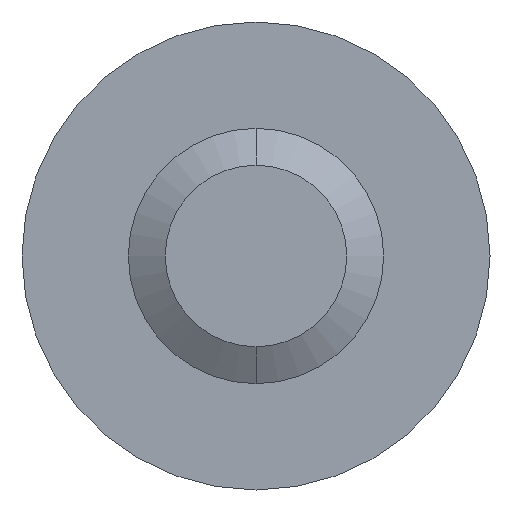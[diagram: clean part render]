
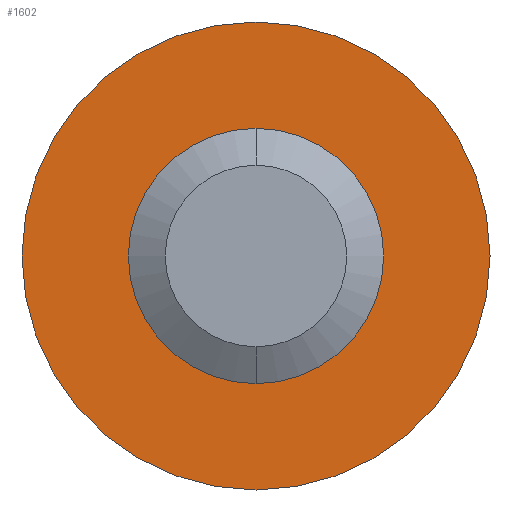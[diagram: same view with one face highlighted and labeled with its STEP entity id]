
A CAD part, front view. The second image highlights one B-rep face of the part: STEP entity #1602.
In plain terms, the highlighted planar face has unit normal (0, -1, 0).
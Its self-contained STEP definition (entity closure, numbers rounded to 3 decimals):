
#26 = CARTESIAN_POINT ( 'NONE',  ( 0., 12., 0. ) ) ;
#36 = CIRCLE ( 'NONE', #2348, 2.75 ) ;
#545 = FACE_BOUND ( 'NONE', #2938, .T. ) ;
#562 = AXIS2_PLACEMENT_3D ( 'NONE', #2327, #844, #1345 ) ;
#569 = DIRECTION ( 'NONE',  ( 0., 1., 0. ) ) ;
#671 = DIRECTION ( 'NONE',  ( 0., 0., 1. ) ) ;
#714 = CIRCLE ( 'NONE', #562, 2.75 ) ;
#835 = VERTEX_POINT ( 'NONE', #1863 ) ;
#843 = EDGE_CURVE ( 'NONE', #2901, #1191, #36, .T. ) ;
#844 = DIRECTION ( 'NONE',  ( 0., 1., 0. ) ) ;
#926 = ORIENTED_EDGE ( 'NONE', *, *, #3163, .F. ) ;
#943 = EDGE_CURVE ( 'NONE', #2825, #835, #2410, .T. ) ;
#968 = AXIS2_PLACEMENT_3D ( 'NONE', #2335, #2113, #671 ) ;
#1002 = CARTESIAN_POINT ( 'NONE',  ( 0., 12., -2.75 ) ) ;
#1010 = DIRECTION ( 'NONE',  ( 0., 1., 0. ) ) ;
#1017 = CIRCLE ( 'NONE', #1480, 1.5 ) ;
#1191 = VERTEX_POINT ( 'NONE', #1002 ) ;
#1345 = DIRECTION ( 'NONE',  ( 0., 0., 1. ) ) ;
#1480 = AXIS2_PLACEMENT_3D ( 'NONE', #1972, #569, #1512 ) ;
#1512 = DIRECTION ( 'NONE',  ( 0., 0., 1. ) ) ;
#1602 = ADVANCED_FACE ( 'NONE', ( #2482, #545 ), #2231, .F. ) ;
#1851 = DIRECTION ( 'NONE',  ( 0., 0., 1. ) ) ;
#1863 = CARTESIAN_POINT ( 'NONE',  ( 0., 12., 1.5 ) ) ;
#1890 = CARTESIAN_POINT ( 'NONE',  ( 0., 12., 2.75 ) ) ;
#1909 = CARTESIAN_POINT ( 'NONE',  ( 0., 12., -1.5 ) ) ;
#1946 = DIRECTION ( 'NONE',  ( 0., 0., 1. ) ) ;
#1972 = CARTESIAN_POINT ( 'NONE',  ( 0., 12., 0. ) ) ;
#2084 = ORIENTED_EDGE ( 'NONE', *, *, #843, .F. ) ;
#2113 = DIRECTION ( 'NONE',  ( 0., 1., 0. ) ) ;
#2130 = CARTESIAN_POINT ( 'NONE',  ( 0., 12., 0. ) ) ;
#2165 = ORIENTED_EDGE ( 'NONE', *, *, #3089, .T. ) ;
#2231 = PLANE ( 'NONE',  #2566 ) ;
#2327 = CARTESIAN_POINT ( 'NONE',  ( 0., 12., 0. ) ) ;
#2335 = CARTESIAN_POINT ( 'NONE',  ( 0., 12., 0. ) ) ;
#2348 = AXIS2_PLACEMENT_3D ( 'NONE', #2130, #2860, #1851 ) ;
#2410 = CIRCLE ( 'NONE', #968, 1.5 ) ;
#2482 = FACE_OUTER_BOUND ( 'NONE', #2741, .T. ) ;
#2566 = AXIS2_PLACEMENT_3D ( 'NONE', #26, #1010, #1946 ) ;
#2616 = ORIENTED_EDGE ( 'NONE', *, *, #943, .T. ) ;
#2741 = EDGE_LOOP ( 'NONE', ( #926, #2084 ) ) ;
#2825 = VERTEX_POINT ( 'NONE', #1909 ) ;
#2860 = DIRECTION ( 'NONE',  ( 0., 1., 0. ) ) ;
#2901 = VERTEX_POINT ( 'NONE', #1890 ) ;
#2938 = EDGE_LOOP ( 'NONE', ( #2616, #2165 ) ) ;
#3089 = EDGE_CURVE ( 'NONE', #835, #2825, #1017, .T. ) ;
#3163 = EDGE_CURVE ( 'NONE', #1191, #2901, #714, .T. ) ;
